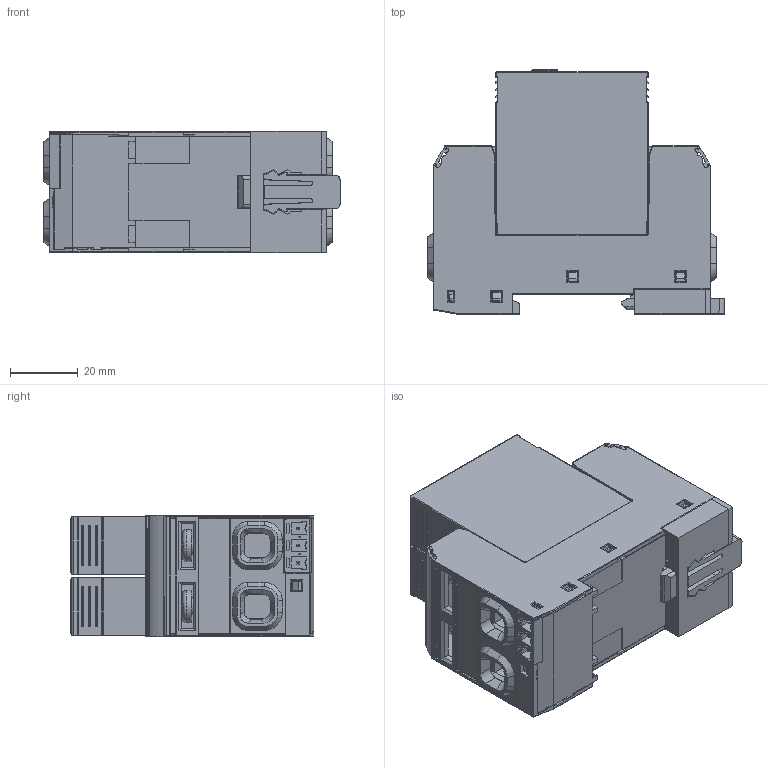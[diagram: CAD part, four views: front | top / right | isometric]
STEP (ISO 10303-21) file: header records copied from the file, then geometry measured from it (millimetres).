
FILE_DESCRIPTION( ( 'Unknown' ), '1' );
FILE_NAME( 'C:/Users/pdellaca/Desktop/Colombo 7P/S 450V 2+0 1+1 --- catalogo.stp', 'Unknown', ( 'Unknown' ), ( 'Unknown' ), 'PSStep 15.0.49', 'Unknown', ' ' );
FILE_SCHEMA( ( 'AUTOMOTIVE_DESIGN { 1 0 10303 214 1 1 1 1 }' ) );
Length unit declared in the file: millimetre
Products named in the file (40): top
Bounding box: 87.58 x 72.1 x 35.8 mm (x, y, z)
Surface area: 42668.9 mm2 (no closed solid volume)
Topology: 0 solids, 1243 shells, 1243 faces, 6439 edges, 6360 vertices
Faces by surface type: plane 731, cylinder 344, torus 54, cone 43, sphere 43, bspline 14, revolution 14
Full cylindrical faces by diameter (mm): 5 x2, 9.5 x2
Entity records: 74149 total; most frequent: CARTESIAN_POINT 16139, DIRECTION 9998, ORIENTED_EDGE 6343, EDGE_CURVE 6343, VERTEX_POINT 6343, LINE 4335, VECTOR 4335, AXIS2_PLACEMENT_3D 2825
